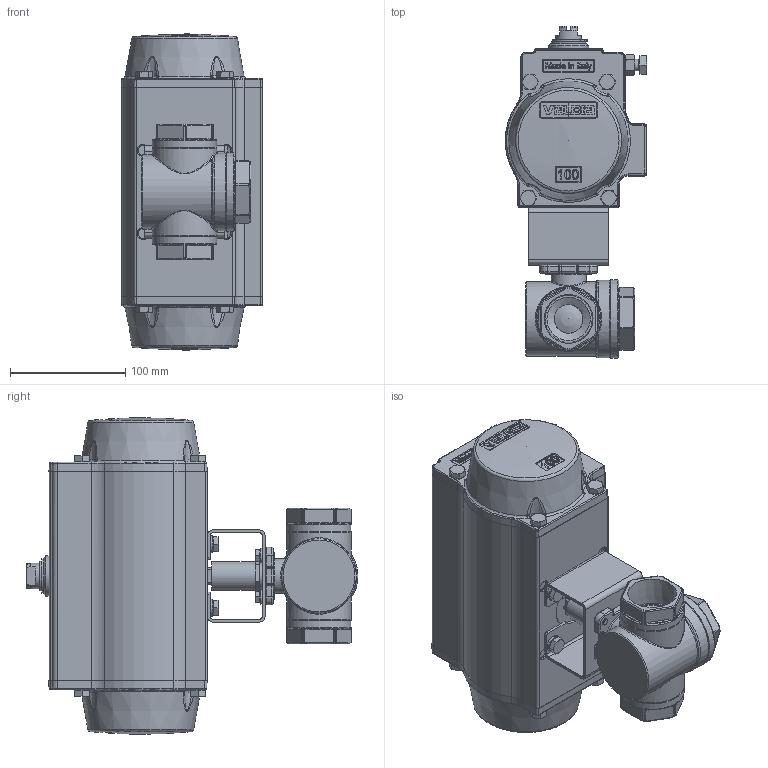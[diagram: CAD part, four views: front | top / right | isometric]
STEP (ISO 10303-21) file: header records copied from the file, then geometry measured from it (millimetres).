
FILE_DESCRIPTION((''),'2;1');
FILE_NAME('M:\3D-Files nach Lieferanten\TA-Produkte\angetriebene Armaturen\Register 8\PV3\PV3 032 T2 SR100.stp','2021-12-02T11:18:43',('RL'),(''),'Autodesk Inventor 2012','Autodesk Inventor 2012','');
FILE_SCHEMA(('AUTOMOTIVE_DESIGN { 1 0 10303 214 1 1 1 1 }'));
Length unit declared in the file: millimetre
Products named in the file (1): PV3 032 T1 SR100
Bounding box: 123.08 x 288.64 x 275.2 mm (x, y, z)
Volume: 3661084.5 mm3; surface area: 278100.2 mm2
Topology: 1 solids, 5 shells, 2259 faces, 5598 edges, 3419 vertices
Faces by surface type: plane 838, bspline 504, cylinder 398, cone 273, torus 153, sphere 93
Full cylindrical faces by diameter (mm): 2 x3, 4.2 x8, 5 x2, 6 x6, 6.3 x1, 7 x4, 8 x4, 8.5 x4, 8.88 x4, 9 x4, 10 x2, 11.6 x2, 11.63 x4, 13 x8, 15 x1, 15.1 x1, 15.2 x1, 15.5 x1, 16 x2, 19 x1, 19.5 x2, 20 x2, 20.637 x1, 22 x1, 22.225 x1, 24.3 x1, 25 x7, 30 x1, 30.4 x1, 35 x1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
Entity records: 100606 total; most frequent: CARTESIAN_POINT 49334, ORIENTED_EDGE 10524, DIRECTION 9586, EDGE_CURVE 5262, AXIS2_PLACEMENT_3D 3834, VERTEX_POINT 3306, EDGE_LOOP 2624, STYLED_ITEM 2260
